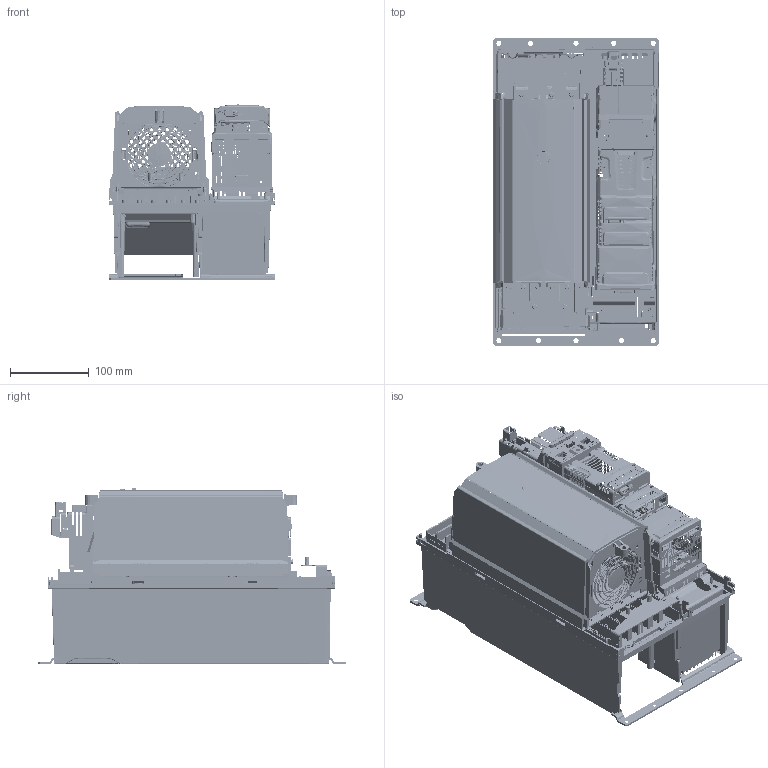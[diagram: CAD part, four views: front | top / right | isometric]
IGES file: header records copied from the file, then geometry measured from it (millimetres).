
Start section:  PTC IGES file: unim06_without_covers.igs
Global section: file name: unim06_without_covers.igs; native system: Pro/ENGINEER by Parametric Technology Corporation; preprocessor: 2011490; author: lewisi02; organization: Unknown; date: 20130902.153947; units: millimetre
Bounding box: 210.31 x 390.75 x 224.12 mm (x, y, z)
Surface area: 935241.9 mm2 (no closed solid volume)
Topology: 0 solids, 0 shells, 3213 faces, 30802 edges, 30794 vertices
Faces by surface type: bspline 3213
